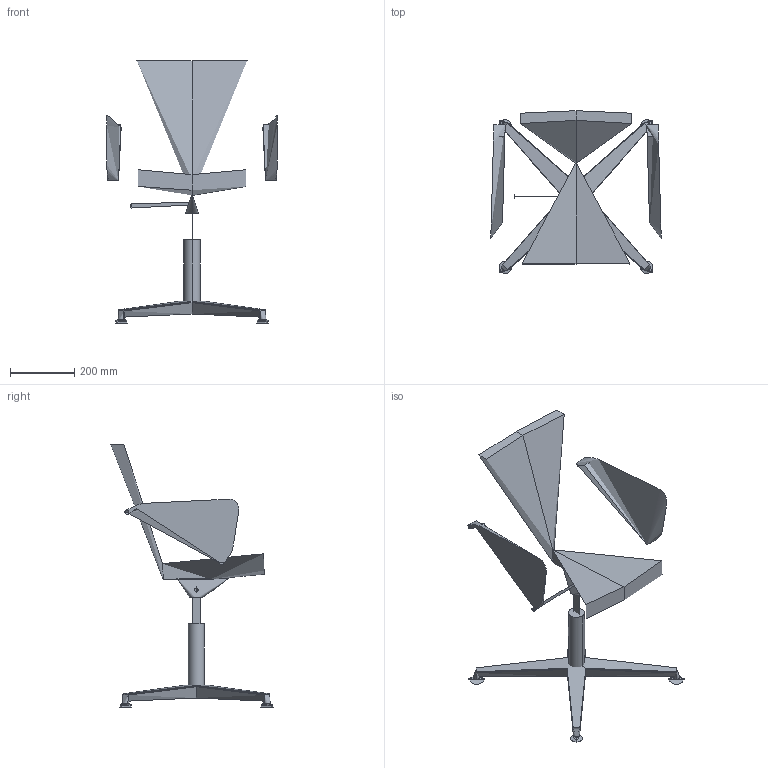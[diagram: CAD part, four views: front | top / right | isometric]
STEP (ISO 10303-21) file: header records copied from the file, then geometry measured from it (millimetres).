
FILE_DESCRIPTION(/* description */ (''),/* implementation_level */ '2;1');
FILE_NAME(/* name */ 'FLE5BF~1',/* time_stamp */ '2015-11-12T16:01:29+01:00',/* author */ (''),/* organization */ (''),/* preprocessor_version */ 'ST-DEVELOPER v15',/* originating_system */ '',/* authorisation */ '');
FILE_SCHEMA (('CONFIG_CONTROL_DESIGN'));
Length unit declared in the file: millimetre
Products named in the file (1): Document
Bounding box: 529.02 x 503.2 x 815.04 mm (x, y, z)
Volume: 16398772.4 mm3; surface area: 1123152.5 mm2
Topology: 4 solids, 16 shells, 162 faces, 362 edges, 209 vertices
Faces by surface type: bspline 130, plane 32
Entity records: 16234 total; most frequent: CARTESIAN_POINT 14115, ORIENTED_EDGE 642, EDGE_CURVE 341, VERTEX_POINT 207, EDGE_LOOP 174, ADVANCED_FACE 162, FACE_OUTER_BOUND 162, B_SPLINE_CURVE_WITH_KNOTS 138
